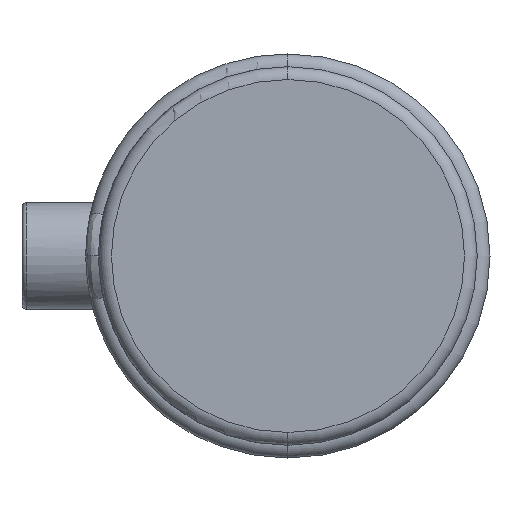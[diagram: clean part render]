
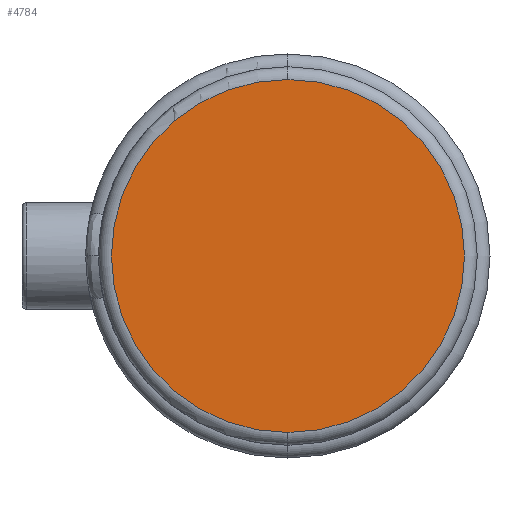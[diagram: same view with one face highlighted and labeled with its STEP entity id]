
A CAD part, left-side view. The second image highlights one B-rep face of the part: STEP entity #4784.
In plain terms, the highlighted planar face has unit normal (-1, 0, 0).
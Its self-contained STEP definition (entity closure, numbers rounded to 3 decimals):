
#17 = DIRECTION ( 'NONE',  ( -1., 0., 0. ) ) ;
#403 = DIRECTION ( 'NONE',  ( 0., 0., 1. ) ) ;
#512 = AXIS2_PLACEMENT_3D ( 'NONE', #5037, #2720, #5997 ) ;
#765 = ORIENTED_EDGE ( 'NONE', *, *, #4884, .T. ) ;
#1435 = AXIS2_PLACEMENT_3D ( 'NONE', #2761, #17, #3239 ) ;
#1827 = VERTEX_POINT ( 'NONE', #3845 ) ;
#2368 = EDGE_LOOP ( 'NONE', ( #2629, #765 ) ) ;
#2629 = ORIENTED_EDGE ( 'NONE', *, *, #5209, .T. ) ;
#2720 = DIRECTION ( 'NONE',  ( -1., 0., 0. ) ) ;
#2761 = CARTESIAN_POINT ( 'NONE',  ( 0., 0., 0. ) ) ;
#3155 = FACE_OUTER_BOUND ( 'NONE', #2368, .T. ) ;
#3157 = DIRECTION ( 'NONE',  ( -1., 0., 0. ) ) ;
#3239 = DIRECTION ( 'NONE',  ( 0., 0., 1. ) ) ;
#3382 = CIRCLE ( 'NONE', #5147, 41.45 ) ;
#3656 = PLANE ( 'NONE',  #512 ) ;
#3845 = CARTESIAN_POINT ( 'NONE',  ( 0., 0., 41.45 ) ) ;
#4113 = CIRCLE ( 'NONE', #1435, 41.45 ) ;
#4258 = CARTESIAN_POINT ( 'NONE',  ( 0., 0., -41.45 ) ) ;
#4289 = VERTEX_POINT ( 'NONE', #4258 ) ;
#4784 = ADVANCED_FACE ( 'NONE', ( #3155 ), #3656, .T. ) ;
#4884 = EDGE_CURVE ( 'NONE', #4289, #1827, #4113, .T. ) ;
#5037 = CARTESIAN_POINT ( 'NONE',  ( 0., 0., 0. ) ) ;
#5147 = AXIS2_PLACEMENT_3D ( 'NONE', #5961, #3157, #403 ) ;
#5209 = EDGE_CURVE ( 'NONE', #1827, #4289, #3382, .T. ) ;
#5961 = CARTESIAN_POINT ( 'NONE',  ( 0., 0., 0. ) ) ;
#5997 = DIRECTION ( 'NONE',  ( 0., 0., 1. ) ) ;
